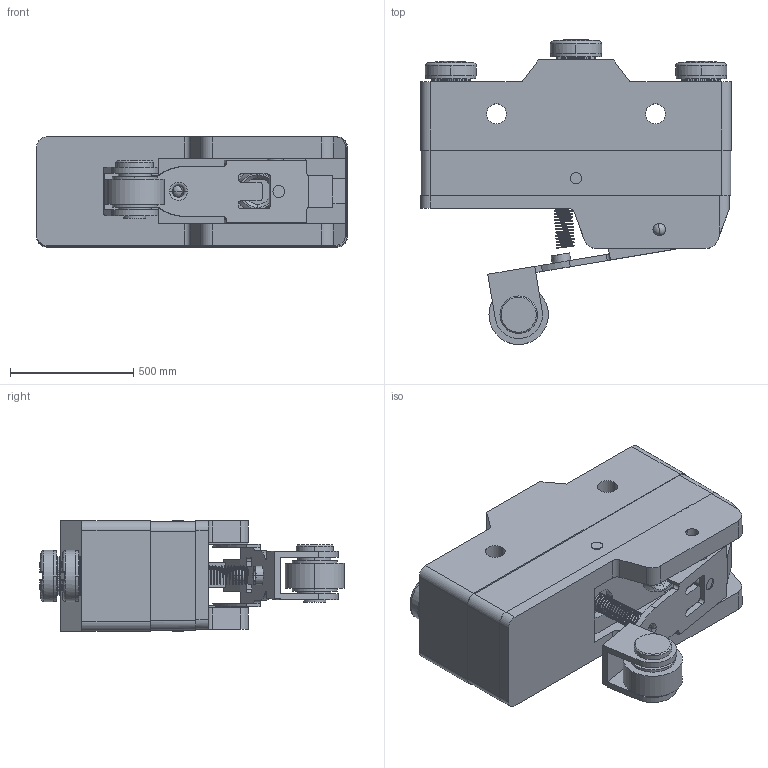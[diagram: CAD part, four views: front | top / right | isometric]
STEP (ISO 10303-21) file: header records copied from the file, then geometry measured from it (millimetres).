
FILE_DESCRIPTION((''),'2;1');
FILE_NAME('ASM0001_ASM','2016-06-02T',('Administrator'),(''),'PRO/ENGINEER BY PARAMETRIC TECHNOLOGY CORPORATION, 2012360','PRO/ENGINEER BY PARAMETRIC TECHNOLOGY CORPORATION, 2012360','');
FILE_SCHEMA(('CONFIG_CONTROL_DESIGN'));
Length unit declared in the file: inch
Products named in the file (1): ASM0001_ASM
Bounding box: 1259.84 x 1238.04 x 447.04 mm (x, y, z)
Volume: 251448784.7 mm3; surface area: 7807193.7 mm2
Topology: 1 solids, 13 shells, 997 faces, 2723 edges, 1774 vertices
Faces by surface type: cylinder 555, plane 296, bspline 67, torus 38, sphere 23, cone 18
Entity records: 42992 total; most frequent: CARTESIAN_POINT 18151, ORIENTED_EDGE 5430, DIRECTION 5007, EDGE_CURVE 2715, AXIS2_PLACEMENT_3D 1975, VERTEX_POINT 1774, VECTOR 1057, LINE 1057
